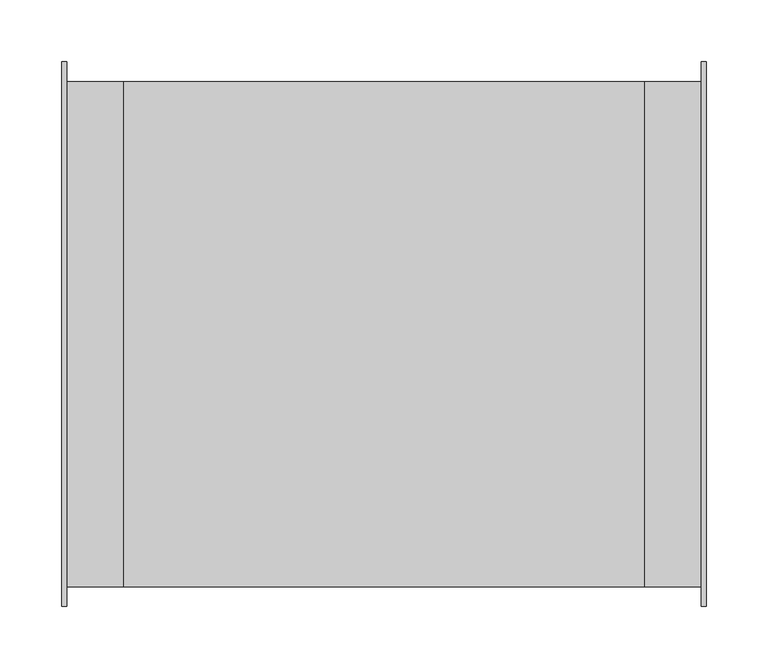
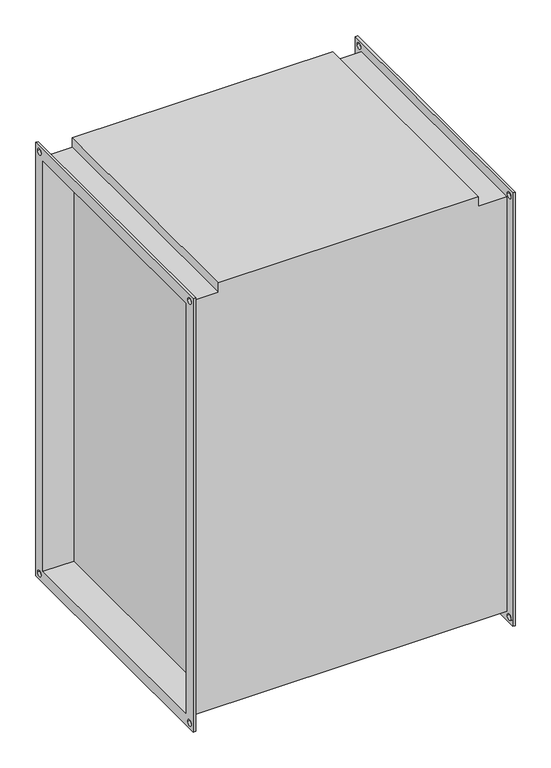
"""IFC4 building model written with IfcOpenShell, lengths in millimetres: proxy geometry, СВ_ВоздухонагревательЭлектрический_КанальныйПрямоугольный_200-1000_SPH-E : SPH-E-700x400/30."""

from ifc_helpers import new_model, si_unit, frame, origin, place, context, project, spatial, polyline, circle_curve, source, transform, mapped, element, save
from ifc_brep_helpers import plane_surface, revolved_surface, advanced_brep


def mechanical_equipment_35fa630b(model_context):
    return source(origin(), model_context, "Body", "AdvancedBrep", [
        advanced_brep(
        [(-210.0, -204.0, 354.0), (-256.0, -204.0, 354.0), (-256.0, -204.0, -354.0), (256.0, -204.0, -354.0), (256.0, -204.0, 354.0), (210.0, -204.0, 354.0), (210.0, -204.0, 370.0), (-210.0, -204.0, 370.0), (-256.0, 204.0, -354.0), (256.0, 204.0, -354.0), (-256.0, 204.0, 354.0), (-210.0, 204.0, 354.0), (-210.0, 204.0, 370.0), (210.0, 204.0, 370.0), (210.0, 204.0, 354.0), (256.0, 204.0, 354.0), (210.0, 200.0, -350.0), (210.0, 200.0, 350.0), (210.0, -200.0, 350.0), (210.0, -200.0, -350.0), (-210.0, -200.0, 350.0), (-210.0, 200.0, 350.0), (-210.0, 200.0, -350.0), (-210.0, -200.0, -350.0), (-260.0, -220.0, 370.0), (-260.0, 220.0, 370.0), (-260.0, 220.0, -370.0), (-260.0, -220.0, -370.0), (-260.0, -200.0, 350.0), (-260.0, -200.0, -350.0), (-260.0, 200.0, -350.0), (-260.0, 200.0, 350.0), (-260.0, 205.0, 360.0), (-260.0, 215.0, 360.0), (-260.0, -215.0, 360.0), (-260.0, -205.0, 360.0), (-260.0, -215.0, -360.0), (-260.0, -205.0, -360.0), (-260.0, 205.0, -360.0), (-260.0, 215.0, -360.0), (-256.0, -220.0, 370.0), (-256.0, -220.0, -370.0), (-256.0, 220.0, -370.0), (-256.0, 220.0, 370.0), (-256.0, 215.0, 360.0), (-256.0, 205.0, 360.0), (-256.0, -205.0, 360.0), (-256.0, -215.0, 360.0), (-256.0, -205.0, -360.0), (-256.0, -215.0, -360.0), (-256.0, 215.0, -360.0), (-256.0, 205.0, -360.0), (256.0, 220.0, 370.0), (256.0, 220.0, -370.0), (256.0, -220.0, -370.0), (256.0, -220.0, 370.0), (256.0, 205.0, 360.0), (256.0, 215.0, 360.0), (256.0, -215.0, 360.0), (256.0, -205.0, 360.0), (256.0, -215.0, -360.0), (256.0, -205.0, -360.0), (256.0, 205.0, -360.0), (256.0, 215.0, -360.0), (260.0, 220.0, 370.0), (260.0, -220.0, 370.0), (260.0, -220.0, -370.0), (260.0, 220.0, -370.0), (260.0, 200.0, 350.0), (260.0, 200.0, -350.0), (260.0, -200.0, -350.0), (260.0, -200.0, 350.0), (260.0, 215.0, 360.0), (260.0, 205.0, 360.0), (260.0, -205.0, 360.0), (260.0, -215.0, 360.0), (260.0, -205.0, -360.0), (260.0, -215.0, -360.0), (260.0, 215.0, -360.0), (260.0, 205.0, -360.0)],
        [
            (0, 1),
            (1, 2),
            (2, 3),
            (3, 4),
            (4, 5),
            (5, 6),
            (6, 7),
            (7, 0),
            (2, 8),
            (8, 9),
            (9, 3),
            (10, 11),
            (11, 12),
            (12, 13),
            (13, 14),
            (14, 15),
            (15, 9),
            (8, 10),
            (0, 11),
            (10, 1),
            (13, 6),
            (5, 14),
            (16, 17),
            (17, 18),
            (18, 19),
            (19, 16),
            (7, 12),
            (20, 21),
            (21, 22),
            (22, 23),
            (23, 20),
            (4, 15),
            (24, 25),
            (25, 26),
            (26, 27),
            (27, 24),
            (28, 29),
            (29, 30),
            (30, 31),
            (31, 28),
            (32, 33, circle_curve(frame((-260.0, 210.0, 360.0), z_axis=(1.0, 0.0, 0.0), x_axis=(0.0, 1.0, 0.0)), 5.0)),
            (33, 32, circle_curve(frame((-260.0, 210.0, 360.0), z_axis=(1.0, 0.0, 0.0), x_axis=(0.0, 1.0, 0.0)), 5.0)),
            (34, 35, circle_curve(frame((-260.0, -210.0, 360.0), z_axis=(1.0, 0.0, 0.0), x_axis=(0.0, 1.0, 0.0)), 5.0)),
            (35, 34, circle_curve(frame((-260.0, -210.0, 360.0), z_axis=(1.0, 0.0, 0.0), x_axis=(0.0, 1.0, 0.0)), 5.0)),
            (36, 37, circle_curve(frame((-260.0, -210.0, -360.0), z_axis=(1.0, 0.0, 0.0), x_axis=(0.0, 1.0, 0.0)), 5.0)),
            (37, 36, circle_curve(frame((-260.0, -210.0, -360.0), z_axis=(1.0, 0.0, 0.0), x_axis=(0.0, 1.0, 0.0)), 5.0)),
            (38, 39, circle_curve(frame((-260.0, 210.0, -360.0), z_axis=(1.0, 0.0, 0.0), x_axis=(0.0, 1.0, 0.0)), 5.0)),
            (39, 38, circle_curve(frame((-260.0, 210.0, -360.0), z_axis=(1.0, 0.0, 0.0), x_axis=(0.0, 1.0, 0.0)), 5.0)),
            (40, 41),
            (41, 42),
            (42, 43),
            (43, 40),
            (44, 45, circle_curve(frame((-256.0, 210.0, 360.0), z_axis=(-1.0, 0.0, 0.0), x_axis=(0.0, 1.0, 0.0)), 5.0)),
            (45, 44, circle_curve(frame((-256.0, 210.0, 360.0), z_axis=(-1.0, 0.0, 0.0), x_axis=(0.0, 1.0, 0.0)), 5.0)),
            (46, 47, circle_curve(frame((-256.0, -210.0, 360.0), z_axis=(-1.0, 0.0, 0.0), x_axis=(0.0, 1.0, 0.0)), 5.0)),
            (47, 46, circle_curve(frame((-256.0, -210.0, 360.0), z_axis=(-1.0, 0.0, 0.0), x_axis=(0.0, 1.0, 0.0)), 5.0)),
            (48, 49, circle_curve(frame((-256.0, -210.0, -360.0), z_axis=(-1.0, 0.0, 0.0), x_axis=(0.0, 1.0, 0.0)), 5.0)),
            (49, 48, circle_curve(frame((-256.0, -210.0, -360.0), z_axis=(-1.0, 0.0, 0.0), x_axis=(0.0, 1.0, 0.0)), 5.0)),
            (50, 51, circle_curve(frame((-256.0, 210.0, -360.0), z_axis=(-1.0, 0.0, 0.0), x_axis=(0.0, 1.0, 0.0)), 5.0)),
            (51, 50, circle_curve(frame((-256.0, 210.0, -360.0), z_axis=(-1.0, 0.0, 0.0), x_axis=(0.0, 1.0, 0.0)), 5.0)),
            (27, 41),
            (40, 24),
            (26, 42),
            (25, 43),
            (52, 53),
            (53, 54),
            (54, 55),
            (55, 52),
            (56, 57, circle_curve(frame((256.0, 210.0, 360.0), z_axis=(1.0, 0.0, 0.0), x_axis=(0.0, 1.0, 0.0)), 5.0)),
            (57, 56, circle_curve(frame((256.0, 210.0, 360.0), z_axis=(1.0, 0.0, 0.0), x_axis=(0.0, 1.0, 0.0)), 5.0)),
            (58, 59, circle_curve(frame((256.0, -210.0, 360.0), z_axis=(1.0, 0.0, 0.0), x_axis=(0.0, 1.0, 0.0)), 5.0)),
            (59, 58, circle_curve(frame((256.0, -210.0, 360.0), z_axis=(1.0, 0.0, 0.0), x_axis=(0.0, 1.0, 0.0)), 5.0)),
            (60, 61, circle_curve(frame((256.0, -210.0, -360.0), z_axis=(1.0, 0.0, 0.0), x_axis=(0.0, 1.0, 0.0)), 5.0)),
            (61, 60, circle_curve(frame((256.0, -210.0, -360.0), z_axis=(1.0, 0.0, 0.0), x_axis=(0.0, 1.0, 0.0)), 5.0)),
            (62, 63, circle_curve(frame((256.0, 210.0, -360.0), z_axis=(1.0, 0.0, 0.0), x_axis=(0.0, 1.0, 0.0)), 5.0)),
            (63, 62, circle_curve(frame((256.0, 210.0, -360.0), z_axis=(1.0, 0.0, 0.0), x_axis=(0.0, 1.0, 0.0)), 5.0)),
            (64, 65),
            (65, 66),
            (66, 67),
            (67, 64),
            (68, 69),
            (69, 70),
            (70, 71),
            (71, 68),
            (72, 73, circle_curve(frame((260.0, 210.0, 360.0), z_axis=(-1.0, 0.0, 0.0), x_axis=(0.0, 1.0, 0.0)), 5.0)),
            (73, 72, circle_curve(frame((260.0, 210.0, 360.0), z_axis=(-1.0, 0.0, 0.0), x_axis=(0.0, 1.0, 0.0)), 5.0)),
            (74, 75, circle_curve(frame((260.0, -210.0, 360.0), z_axis=(-1.0, 0.0, 0.0), x_axis=(0.0, 1.0, 0.0)), 5.0)),
            (75, 74, circle_curve(frame((260.0, -210.0, 360.0), z_axis=(-1.0, 0.0, 0.0), x_axis=(0.0, 1.0, 0.0)), 5.0)),
            (76, 77, circle_curve(frame((260.0, -210.0, -360.0), z_axis=(-1.0, 0.0, 0.0), x_axis=(0.0, 1.0, 0.0)), 5.0)),
            (77, 76, circle_curve(frame((260.0, -210.0, -360.0), z_axis=(-1.0, 0.0, 0.0), x_axis=(0.0, 1.0, 0.0)), 5.0)),
            (78, 79, circle_curve(frame((260.0, 210.0, -360.0), z_axis=(-1.0, 0.0, 0.0), x_axis=(0.0, 1.0, 0.0)), 5.0)),
            (79, 78, circle_curve(frame((260.0, 210.0, -360.0), z_axis=(-1.0, 0.0, 0.0), x_axis=(0.0, 1.0, 0.0)), 5.0)),
            (55, 65),
            (64, 52),
            (54, 66),
            (53, 67),
            (31, 21),
            (20, 28),
            (30, 22),
            (29, 23),
            (68, 17),
            (16, 69),
            (19, 70),
            (18, 71),
            (32, 45),
            (44, 33),
            (56, 73),
            (72, 57),
            (34, 47),
            (46, 35),
            (58, 75),
            (74, 59),
            (36, 49),
            (48, 37),
            (60, 77),
            (76, 61),
            (38, 51),
            (50, 39),
            (62, 79),
            (78, 63),
        ],
        [
            plane_surface(frame((-210.0, -204.0, 354.0), z_axis=(0.0, -1.0, 0.0), x_axis=(-1.0, 0.0, 0.0))),
            plane_surface(frame((-210.0, -204.0, -354.0), z_axis=(0.0, 0.0, -1.0), x_axis=(-1.0, 0.0, 0.0))),
            plane_surface(frame((-210.0, 204.0, -354.0), z_axis=(0.0, 1.0, 0.0), x_axis=(-1.0, 0.0, 0.0))),
            plane_surface(frame((-210.0, 204.0, 354.0), z_axis=(0.0, 0.0, 1.0), x_axis=(-1.0, 0.0, 0.0))),
            plane_surface(frame((210.0, -204.0, 370.0), z_axis=(1.0, 0.0, 0.0), x_axis=(0.0, 0.0, -1.0))),
            plane_surface(frame((-210.0, -204.0, 370.0), z_axis=(-1.0, 0.0, 0.0), x_axis=(0.0, 0.0, 1.0))),
            plane_surface(frame((210.0, 204.0, 370.0), z_axis=(0.0, 0.0, 1.0), x_axis=(-1.0, 0.0, 0.0))),
            plane_surface(frame((256.0, 204.0, 354.0), z_axis=(0.0, 0.0, 1.0), x_axis=(-1.0, 0.0, 0.0))),
            plane_surface(frame((-260.0, -220.0, 370.0), z_axis=(-1.0, 0.0, 0.0), x_axis=(0.0, 0.0, 1.0))),
            plane_surface(frame((-256.0, -220.0, 370.0), z_axis=(1.0, 0.0, 0.0), x_axis=(0.0, 0.0, -1.0))),
            plane_surface(frame((-256.0, -220.0, 370.0), z_axis=(0.0, -1.0, 0.0), x_axis=(-1.0, 0.0, 0.0))),
            plane_surface(frame((-256.0, -220.0, -370.0), z_axis=(0.0, 0.0, -1.0), x_axis=(-1.0, 0.0, 0.0))),
            plane_surface(frame((-256.0, 220.0, -370.0), z_axis=(0.0, 1.0, 0.0), x_axis=(-1.0, 0.0, 0.0))),
            plane_surface(frame((-256.0, 220.0, 370.0), z_axis=(0.0, 0.0, 1.0), x_axis=(-1.0, 0.0, 0.0))),
            plane_surface(frame((256.0, 200.0, -350.0), z_axis=(-1.0, 0.0, 0.0), x_axis=(0.0, 0.0, 1.0))),
            plane_surface(frame((260.0, 200.0, -350.0), z_axis=(1.0, 0.0, 0.0), x_axis=(0.0, 0.0, -1.0))),
            plane_surface(frame((260.0, 220.0, 370.0), z_axis=(0.0, 0.0, 1.0), x_axis=(-1.0, 0.0, 0.0))),
            plane_surface(frame((260.0, -220.0, 370.0), z_axis=(0.0, -1.0, 0.0), x_axis=(-1.0, 0.0, 0.0))),
            plane_surface(frame((260.0, -220.0, -370.0), z_axis=(0.0, 0.0, -1.0), x_axis=(-1.0, 0.0, 0.0))),
            plane_surface(frame((260.0, 220.0, -370.0), z_axis=(0.0, 1.0, 0.0), x_axis=(-1.0, 0.0, 0.0))),
            plane_surface(frame((-256.0, -200.0, 350.0), z_axis=(0.0, 0.0, -1.0), x_axis=(-1.0, 0.0, 0.0))),
            plane_surface(frame((-256.0, 200.0, 350.0), z_axis=(0.0, -1.0, 0.0), x_axis=(-1.0, 0.0, 0.0))),
            plane_surface(frame((-256.0, 200.0, -350.0), z_axis=(0.0, 0.0, 1.0), x_axis=(-1.0, 0.0, 0.0))),
            plane_surface(frame((-256.0, -200.0, -350.0), z_axis=(0.0, 1.0, 0.0), x_axis=(-1.0, 0.0, 0.0))),
            plane_surface(frame((260.0, 200.0, 350.0), z_axis=(0.0, -1.0, 0.0), x_axis=(-1.0, 0.0, 0.0))),
            plane_surface(frame((260.0, 200.0, -350.0), z_axis=(0.0, 0.0, 1.0), x_axis=(-1.0, 0.0, 0.0))),
            plane_surface(frame((260.0, -200.0, -350.0), z_axis=(0.0, 1.0, 0.0), x_axis=(-1.0, 0.0, 0.0))),
            plane_surface(frame((260.0, -200.0, 350.0), z_axis=(0.0, 0.0, -1.0), x_axis=(-1.0, 0.0, 0.0))),
            revolved_surface(polyline([(-256.0, 215.0, 360.0), (-260.0, 215.0, 360.0)]), (-260.0, 210.0, 360.0), (1.0, 0.0, 0.0)),
            revolved_surface(polyline([(260.0, 215.0, 360.0), (256.0, 215.0, 360.0)]), (-260.0, 210.0, 360.0), (1.0, 0.0, 0.0)),
            revolved_surface(polyline([(-256.0, -205.0, 360.0), (-260.0, -205.0, 360.0)]), (0.0, -210.0, 360.0), (1.0, 0.0, 0.0)),
            revolved_surface(polyline([(260.0, -205.0, 360.0), (256.0, -205.0, 360.0)]), (0.0, -210.0, 360.0), (1.0, 0.0, 0.0)),
            revolved_surface(polyline([(-256.0, -205.0, -360.0), (-260.0, -205.0, -360.0)]), (0.0, -210.0, -360.0), (1.0, 0.0, 0.0)),
            revolved_surface(polyline([(260.0, -205.0, -360.0), (256.0, -205.0, -360.0)]), (0.0, -210.0, -360.0), (1.0, 0.0, 0.0)),
            revolved_surface(polyline([(-256.0, 215.0, -360.0), (-260.0, 215.0, -360.0)]), (0.0, 210.0, -360.0), (1.0, 0.0, 0.0)),
            revolved_surface(polyline([(260.0, 215.0, -360.0), (256.0, 215.0, -360.0)]), (0.0, 210.0, -360.0), (1.0, 0.0, 0.0)),
        ],
        [
            (0, [[1, 2, 3, 4, 5, 6, 7, 8]]),
            (1, [[-3, 9, 10, 11]]),
            (2, [[12, 13, 14, 15, 16, 17, -10, 18]]),
            (3, [[-1, 19, -12, 20]]),
            (4, [[21, -6, 22, -15]]),
            (4, [[23, 24, 25, 26]]),
            (5, [[27, -13, -19, -8]]),
            (5, [[28, 29, 30, 31]]),
            (6, [[-21, -14, -27, -7]]),
            (7, [[-5, 32, -16, -22]]),
            (8, [[33, 34, 35, 36], [37, 38, 39, 40], [41, 42], [43, 44], [45, 46], [47, 48]]),
            (9, [[49, 50, 51, 52], [-2, -20, -18, -9], [53, 54], [55, 56], [57, 58], [59, 60]]),
            (10, [[-36, 61, -49, 62]]),
            (11, [[-35, 63, -50, -61]]),
            (12, [[-34, 64, -51, -63]]),
            (13, [[-33, -62, -52, -64]]),
            (14, [[65, 66, 67, 68], [-4, -11, -17, -32], [69, 70], [71, 72], [73, 74], [75, 76]]),
            (15, [[77, 78, 79, 80], [81, 82, 83, 84], [85, 86], [87, 88], [89, 90], [91, 92]]),
            (16, [[-68, 93, -77, 94]]),
            (17, [[-67, 95, -78, -93]]),
            (18, [[-66, 96, -79, -95]]),
            (19, [[-65, -94, -80, -96]]),
            (20, [[-40, 97, -28, 98]]),
            (21, [[-39, 99, -29, -97]]),
            (22, [[-38, 100, -30, -99]]),
            (23, [[-37, -98, -31, -100]]),
            (24, [[-81, 101, -23, 102]]),
            (25, [[-82, -102, -26, 103]]),
            (26, [[-83, -103, -25, 104]]),
            (27, [[-101, -84, -104, -24]]),
            (28, [[105, -53, 106, -41]]),
            (29, [[107, -85, 108, -69]]),
            (28, [[-105, -42, -106, -54]]),
            (29, [[-107, -70, -108, -86]]),
            (30, [[109, -55, 110, -43]]),
            (31, [[111, -87, 112, -71]]),
            (30, [[-109, -44, -110, -56]]),
            (31, [[-111, -72, -112, -88]]),
            (32, [[113, -57, 114, -45]]),
            (33, [[115, -89, 116, -73]]),
            (32, [[-113, -46, -114, -58]]),
            (33, [[-115, -74, -116, -90]]),
            (34, [[117, -59, 118, -47]]),
            (35, [[119, -91, 120, -75]]),
            (34, [[-117, -48, -118, -60]]),
            (35, [[-119, -76, -120, -92]]),
        ],
    ),
    ])


if __name__ == "__main__":
    model = new_model("IFC4")
    model_context = context("Model", 3, world=origin())
    ifc_project = project(units=[si_unit("LENGTHUNIT", "METRE", prefix="MILLI")], contexts=[model_context])
    site = spatial("IfcSite", under=ifc_project)
    building = spatial("IfcBuilding", under=site)
    placement = place(None, origin())
    mechanical_equipment_shape = mechanical_equipment_35fa630b(model_context)
    element("IfcBuildingElementProxy", 1, Name="СВ_ВоздухонагревательЭлектрический_КанальныйПрямоугольный_200-1000_SPH-E : SPH-E-700x400/30", ObjectType="СВ_ВоздухонагревательЭлектрический_КанальныйПрямоугольный_200-1000_SPH-E : SPH-E-700x400/30", at=placement, inside=building, context=model_context, shape_type="MappedRepresentation", body=[
        mapped(mechanical_equipment_shape, transform((0.0, 0.0, 0.0), x_axis=(1.0, 0.0, 0.0), y_axis=(0.0, 1.0, 0.0), z_axis=(0.0, 0.0, 1.0))),
    ])
    save(model, "model.ifc")
